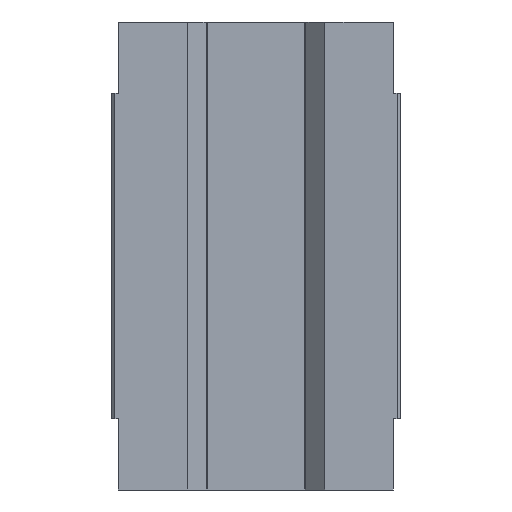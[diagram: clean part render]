
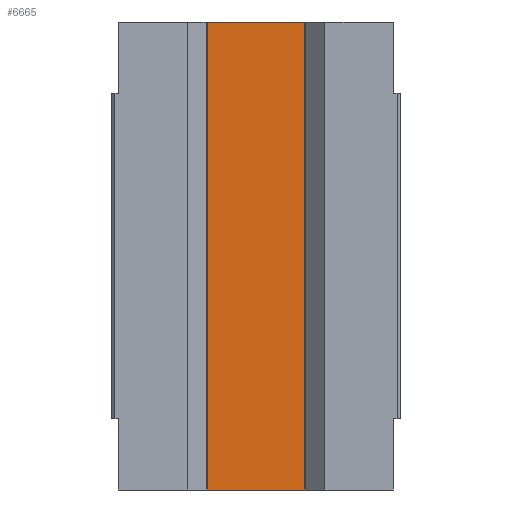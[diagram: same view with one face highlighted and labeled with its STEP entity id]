
A CAD part, front view. The second image highlights one B-rep face of the part: STEP entity #6665.
In plain terms, the highlighted planar face has unit normal (0, -1, 0).
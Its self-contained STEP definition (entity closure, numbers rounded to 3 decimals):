
#592 = AXIS2_PLACEMENT_3D ( 'NONE', #6774, #6691, #6686 ) ;
#789 = EDGE_CURVE ( 'NONE', #1096, #9010, #7426, .T. ) ;
#1096 = VERTEX_POINT ( 'NONE', #5828 ) ;
#1792 = CARTESIAN_POINT ( 'NONE',  ( -14.51, 0., 69.7 ) ) ;
#1866 = DIRECTION ( 'NONE',  ( 0., 0., -1. ) ) ;
#1879 = CARTESIAN_POINT ( 'NONE',  ( -14.51, 0., -69.7 ) ) ;
#1912 = DIRECTION ( 'NONE',  ( 0., 0., 1. ) ) ;
#1928 = DIRECTION ( 'NONE',  ( 1., 0., 0. ) ) ;
#1944 = CARTESIAN_POINT ( 'NONE',  ( 14.51, 0., 69.7 ) ) ;
#2667 = LINE ( 'NONE', #1879, #2849 ) ;
#2711 = VERTEX_POINT ( 'NONE', #4923 ) ;
#2849 = VECTOR ( 'NONE', #1866, 1000. ) ;
#3464 = LINE ( 'NONE', #3976, #3524 ) ;
#3524 = VECTOR ( 'NONE', #1928, 1000. ) ;
#3976 = CARTESIAN_POINT ( 'NONE',  ( 0., 0., 69.7 ) ) ;
#4923 = CARTESIAN_POINT ( 'NONE',  ( -14.51, 0., -69.7 ) ) ;
#5136 = VERTEX_POINT ( 'NONE', #1792 ) ;
#5828 = CARTESIAN_POINT ( 'NONE',  ( 14.51, 0., -69.7 ) ) ;
#5853 = ORIENTED_EDGE ( 'NONE', *, *, #5970, .T. ) ;
#5970 = EDGE_CURVE ( 'NONE', #2711, #1096, #6990, .T. ) ;
#6192 = ORIENTED_EDGE ( 'NONE', *, *, #7450, .F. ) ;
#6665 = ADVANCED_FACE ( 'NONE', ( #8182 ), #6744, .F. ) ;
#6686 = DIRECTION ( 'NONE',  ( -1., 0., 0. ) ) ;
#6691 = DIRECTION ( 'NONE',  ( 0., 1., 0. ) ) ;
#6744 = PLANE ( 'NONE',  #592 ) ;
#6774 = CARTESIAN_POINT ( 'NONE',  ( -15.42, 0., 69.7 ) ) ;
#6914 = VECTOR ( 'NONE', #7093, 1000. ) ;
#6990 = LINE ( 'NONE', #7320, #6914 ) ;
#7093 = DIRECTION ( 'NONE',  ( 1., 0., 0. ) ) ;
#7320 = CARTESIAN_POINT ( 'NONE',  ( -15.42, 0., -69.7 ) ) ;
#7405 = EDGE_CURVE ( 'NONE', #5136, #2711, #2667, .T. ) ;
#7426 = LINE ( 'NONE', #1944, #8950 ) ;
#7450 = EDGE_CURVE ( 'NONE', #5136, #9010, #3464, .T. ) ;
#7644 = ORIENTED_EDGE ( 'NONE', *, *, #7405, .T. ) ;
#8039 = EDGE_LOOP ( 'NONE', ( #6192, #7644, #5853, #8559 ) ) ;
#8182 = FACE_OUTER_BOUND ( 'NONE', #8039, .T. ) ;
#8559 = ORIENTED_EDGE ( 'NONE', *, *, #789, .T. ) ;
#8950 = VECTOR ( 'NONE', #1912, 1000. ) ;
#9010 = VERTEX_POINT ( 'NONE', #9039 ) ;
#9039 = CARTESIAN_POINT ( 'NONE',  ( 14.51, 0., 69.7 ) ) ;
